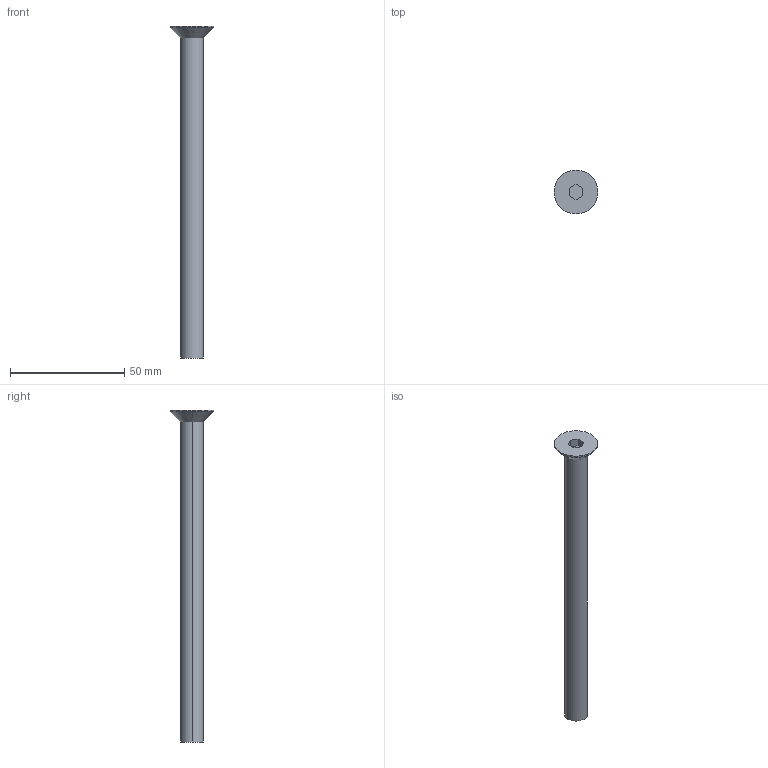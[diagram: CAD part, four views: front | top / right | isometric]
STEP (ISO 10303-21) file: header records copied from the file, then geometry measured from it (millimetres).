
FILE_DESCRIPTION (( 'STEP AP214' ), '1' );
FILE_NAME ('COUNTERSHUNK_HEAD_BOLT_M10(L=140).STEP', '2021-09-18T10:25:36', ( '' ), ( '' ), 'SwSTEP 2.0', 'SolidWorks 2018', '' );
FILE_SCHEMA (( 'AUTOMOTIVE_DESIGN' ));
Length unit declared in the file: millimetre
Products named in the file (1): COUNTERSHUNK_HEAD_BOLT_M10(L=140)
Bounding box: 19.22 x 19.22 x 145.22 mm (x, y, z)
Volume: 11858.8 mm3; surface area: 5177.8 mm2
Topology: 1 solids, 1 shells, 15 faces, 32 edges, 20 vertices
Faces by surface type: plane 9, cylinder 4, cone 2
Entity records: 436 total; most frequent: DIRECTION 72, CARTESIAN_POINT 68, ORIENTED_EDGE 64, EDGE_CURVE 32, LINE 24, AXIS2_PLACEMENT_3D 24, VECTOR 24, VERTEX_POINT 20
